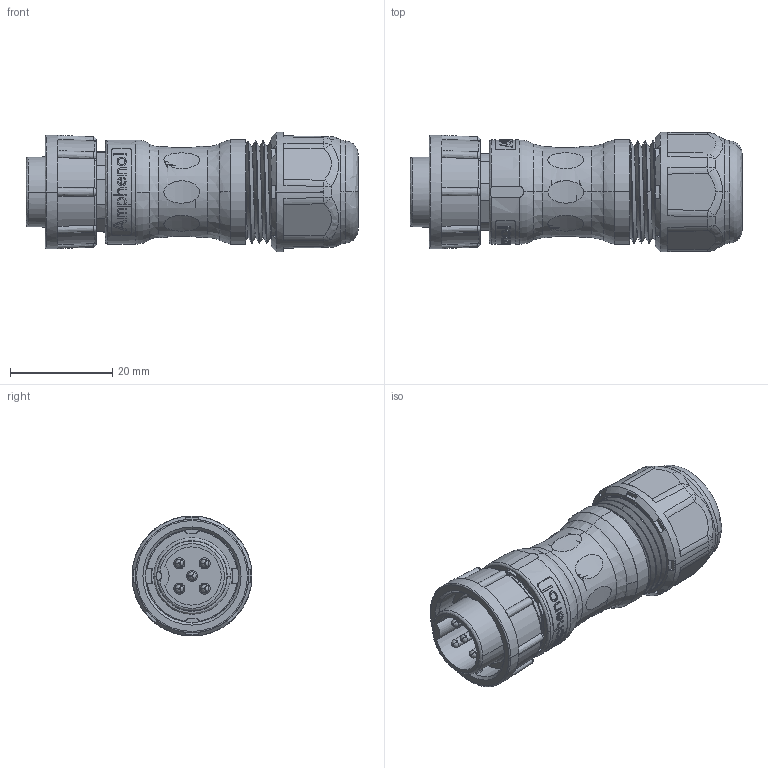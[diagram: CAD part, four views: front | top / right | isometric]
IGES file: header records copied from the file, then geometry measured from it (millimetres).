
Start section:  PTC IGES file: acb-05bfmc-ll7.igs
Global section: file name: acb-05bfmc-ll7.igs; native system: Creo Parametric by Parametric Technology Corporation; preprocessor: 2013050; author: K170013; organization: Unknown; date: 20190513.180025; units: millimetre
Bounding box: 65 x 23.48 x 23.48 mm (x, y, z)
Surface area: 11611.8 mm2 (no closed solid volume)
Topology: 0 solids, 0 shells, 939 faces, 5272 edges, 5269 vertices
Faces by surface type: bspline 388, revolution 320, extrusion 231
